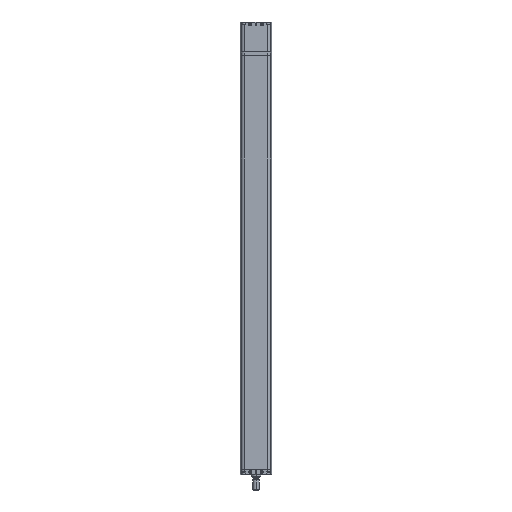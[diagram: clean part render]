
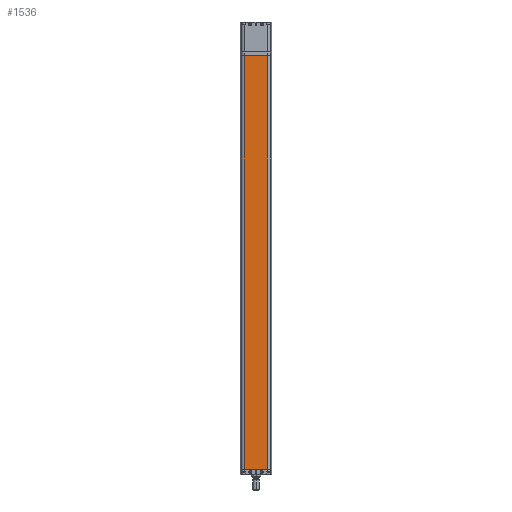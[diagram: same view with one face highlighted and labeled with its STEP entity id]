
A CAD part, front view. The second image highlights one B-rep face of the part: STEP entity #1536.
In plain terms, the highlighted planar face has unit normal (0, -1, 0).
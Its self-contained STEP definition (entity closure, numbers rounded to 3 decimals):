
#175 = ORIENTED_EDGE ( 'NONE', *, *, #5342, .F. ) ;
#1536 = ADVANCED_FACE ( 'NONE', ( #10727 ), #21857, .T. ) ;
#2431 = LINE ( 'NONE', #17621, #11010 ) ;
#2730 = VECTOR ( 'NONE', #23230, 1000. ) ;
#2742 = ORIENTED_EDGE ( 'NONE', *, *, #9485, .T. ) ;
#2934 = VERTEX_POINT ( 'NONE', #22971 ) ;
#3304 = DIRECTION ( 'NONE',  ( 0., 0., 1. ) ) ;
#4818 = EDGE_CURVE ( 'NONE', #2934, #12485, #9088, .T. ) ;
#4967 = EDGE_CURVE ( 'NONE', #12485, #23521, #19850, .T. ) ;
#5342 = EDGE_CURVE ( 'NONE', #13361, #23521, #2431, .T. ) ;
#6469 = ORIENTED_EDGE ( 'NONE', *, *, #4967, .T. ) ;
#7906 = LINE ( 'NONE', #13562, #2730 ) ;
#8441 = CARTESIAN_POINT ( 'NONE',  ( 31.138, -41., -1073. ) ) ;
#9088 = LINE ( 'NONE', #22417, #20760 ) ;
#9485 = EDGE_CURVE ( 'NONE', #13361, #2934, #7906, .T. ) ;
#9570 = DIRECTION ( 'NONE',  ( 1., 0., 0. ) ) ;
#10727 = FACE_OUTER_BOUND ( 'NONE', #14851, .T. ) ;
#11010 = VECTOR ( 'NONE', #22634, 1000. ) ;
#12149 = CARTESIAN_POINT ( 'NONE',  ( 31.138, -41., -73. ) ) ;
#12485 = VERTEX_POINT ( 'NONE', #22171 ) ;
#12563 = CARTESIAN_POINT ( 'NONE',  ( -41., -41., -1073. ) ) ;
#13361 = VERTEX_POINT ( 'NONE', #22723 ) ;
#13562 = CARTESIAN_POINT ( 'NONE',  ( -31.138, -41., -1073. ) ) ;
#14129 = VECTOR ( 'NONE', #3304, 1000. ) ;
#14509 = DIRECTION ( 'NONE',  ( 0., -1., 0. ) ) ;
#14851 = EDGE_LOOP ( 'NONE', ( #2742, #15449, #6469, #175 ) ) ;
#15449 = ORIENTED_EDGE ( 'NONE', *, *, #4818, .T. ) ;
#17621 = CARTESIAN_POINT ( 'NONE',  ( -41., -41., -73. ) ) ;
#19673 = DIRECTION ( 'NONE',  ( 0., 0., -1. ) ) ;
#19850 = LINE ( 'NONE', #8441, #14129 ) ;
#20760 = VECTOR ( 'NONE', #9570, 1000. ) ;
#21857 = PLANE ( 'NONE',  #23780 ) ;
#22171 = CARTESIAN_POINT ( 'NONE',  ( 31.138, -41., -1151. ) ) ;
#22417 = CARTESIAN_POINT ( 'NONE',  ( -41., -41., -1151. ) ) ;
#22634 = DIRECTION ( 'NONE',  ( 1., 0., 0. ) ) ;
#22723 = CARTESIAN_POINT ( 'NONE',  ( -31.138, -41., -73. ) ) ;
#22971 = CARTESIAN_POINT ( 'NONE',  ( -31.138, -41., -1151. ) ) ;
#23230 = DIRECTION ( 'NONE',  ( 0., 0., -1. ) ) ;
#23521 = VERTEX_POINT ( 'NONE', #12149 ) ;
#23780 = AXIS2_PLACEMENT_3D ( 'NONE', #12563, #14509, #19673 ) ;
